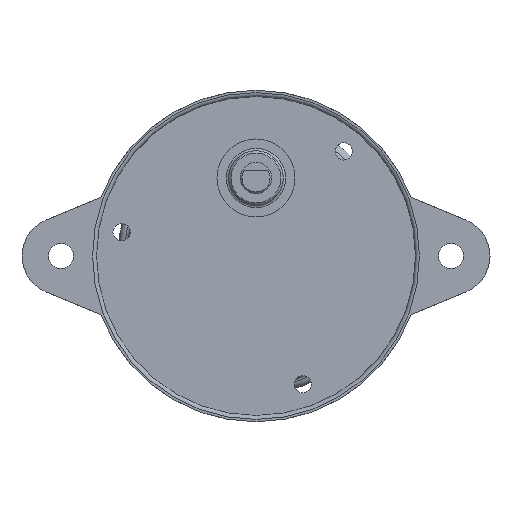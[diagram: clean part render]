
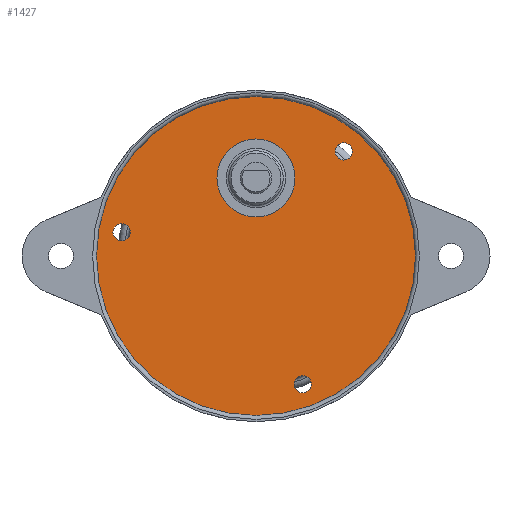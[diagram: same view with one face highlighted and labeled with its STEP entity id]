
A CAD part, front view. The second image highlights one B-rep face of the part: STEP entity #1427.
In plain terms, the highlighted planar face has unit normal (0, -1, 0).
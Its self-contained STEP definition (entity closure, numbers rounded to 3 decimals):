
#78=FACE_BOUND('',#310,.T.);
#79=FACE_BOUND('',#311,.T.);
#80=FACE_BOUND('',#312,.T.);
#81=FACE_BOUND('',#313,.T.);
#114=PLANE('',#1703);
#195=FACE_OUTER_BOUND('',#309,.T.);
#309=EDGE_LOOP('',(#1216));
#310=EDGE_LOOP('',(#1217));
#311=EDGE_LOOP('',(#1218));
#312=EDGE_LOOP('',(#1219));
#313=EDGE_LOOP('',(#1220));
#543=CIRCLE('',#1644,1.1);
#545=CIRCLE('',#1647,1.1);
#547=CIRCLE('',#1650,1.1);
#562=CIRCLE('',#1671,20.45);
#581=CIRCLE('',#1702,5.);
#659=VERTEX_POINT('',#2436);
#661=VERTEX_POINT('',#2442);
#663=VERTEX_POINT('',#2448);
#683=VERTEX_POINT('',#2534);
#708=VERTEX_POINT('',#2608);
#821=EDGE_CURVE('',#659,#659,#543,.T.);
#824=EDGE_CURVE('',#661,#661,#545,.T.);
#827=EDGE_CURVE('',#663,#663,#547,.T.);
#852=EDGE_CURVE('',#683,#683,#562,.T.);
#885=EDGE_CURVE('',#708,#708,#581,.T.);
#1216=ORIENTED_EDGE('',*,*,#852,.T.);
#1217=ORIENTED_EDGE('',*,*,#821,.T.);
#1218=ORIENTED_EDGE('',*,*,#824,.T.);
#1219=ORIENTED_EDGE('',*,*,#827,.T.);
#1220=ORIENTED_EDGE('',*,*,#885,.T.);
#1427=ADVANCED_FACE('',(#195,#78,#79,#80,#81),#114,.F.);
#1644=AXIS2_PLACEMENT_3D('',#2437,#2011,#2012);
#1647=AXIS2_PLACEMENT_3D('',#2443,#2018,#2019);
#1650=AXIS2_PLACEMENT_3D('',#2449,#2025,#2026);
#1671=AXIS2_PLACEMENT_3D('',#2536,#2073,#2074);
#1702=AXIS2_PLACEMENT_3D('',#2610,#2147,#2148);
#1703=AXIS2_PLACEMENT_3D('',#2611,#2149,#2150);
#2011=DIRECTION('center_axis',(0.,1.,0.));
#2012=DIRECTION('ref_axis',(-0.5,0.,0.866));
#2018=DIRECTION('center_axis',(0.,1.,0.));
#2019=DIRECTION('ref_axis',(-0.5,0.,-0.866));
#2025=DIRECTION('center_axis',(0.,1.,0.));
#2026=DIRECTION('ref_axis',(1.,0.,0.));
#2073=DIRECTION('center_axis',(0.,-1.,0.));
#2074=DIRECTION('ref_axis',(-1.,0.,0.));
#2147=DIRECTION('center_axis',(0.,1.,0.));
#2148=DIRECTION('ref_axis',(-1.,0.,0.));
#2149=DIRECTION('center_axis',(0.,1.,0.));
#2150=DIRECTION('ref_axis',(0.,0.,1.));
#2436=CARTESIAN_POINT('',(6.535,1.9,-17.397));
#2437=CARTESIAN_POINT('Origin',(5.985,1.9,-16.445));
#2442=CARTESIAN_POINT('',(11.799,1.9,14.358));
#2443=CARTESIAN_POINT('Origin',(11.249,1.9,13.406));
#2448=CARTESIAN_POINT('',(-18.334,1.9,3.039));
#2449=CARTESIAN_POINT('Origin',(-17.234,1.9,3.039));
#2534=CARTESIAN_POINT('',(20.45,1.9,0.));
#2536=CARTESIAN_POINT('Origin',(0.,1.9,0.));
#2608=CARTESIAN_POINT('',(5.,1.9,10.));
#2610=CARTESIAN_POINT('Origin',(0.,1.9,10.));
#2611=CARTESIAN_POINT('Origin',(0.,1.9,0.));
